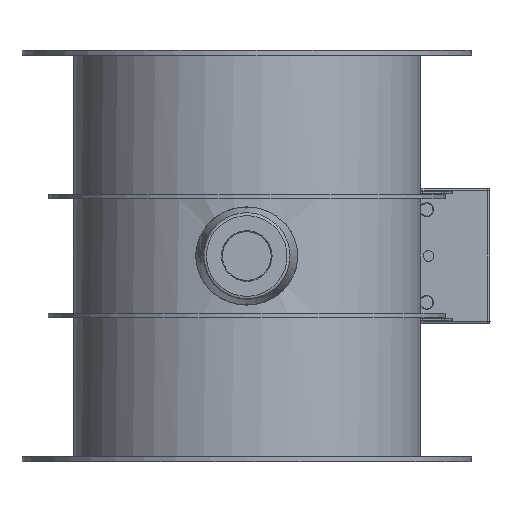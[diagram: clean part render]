
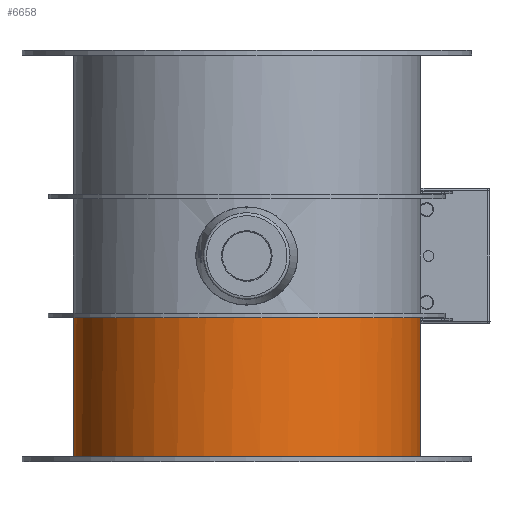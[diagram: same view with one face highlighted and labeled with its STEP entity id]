
A CAD part, left-side view. The second image highlights one B-rep face of the part: STEP entity #6658.
In plain terms, the highlighted free-form (B-spline) face has degree [2, 1] with [7, 2] control points.
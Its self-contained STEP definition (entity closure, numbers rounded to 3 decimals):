
#6265=CARTESIAN_POINT('',(114.,0.,-132.));
#6266=VERTEX_POINT('',#6265);
#6267=CARTESIAN_POINT('',(114.,0.,-132.));
#6268=CARTESIAN_POINT('',(114.,-197.454,-132.));
#6269=CARTESIAN_POINT('',(-57.,-98.727,-132.));
#6270=CARTESIAN_POINT('',(-228.,0.,-132.));
#6271=CARTESIAN_POINT('',(-57.,98.727,-132.));
#6272=CARTESIAN_POINT('',(114.,197.454,-132.));
#6273=CARTESIAN_POINT('',(114.,0.,-132.));
#6274=(BOUNDED_CURVE()B_SPLINE_CURVE(2,(#6267,#6268,#6269,#6270,#6271,#6272,#6273),.CIRCULAR_ARC.,.T.,.U.)B_SPLINE_CURVE_WITH_KNOTS((3,2,2,3),(0.,0.333,0.667,1.),.UNSPECIFIED.)CURVE()GEOMETRIC_REPRESENTATION_ITEM()RATIONAL_B_SPLINE_CURVE((1.,0.5,1.,0.5,1.,0.5,1.))REPRESENTATION_ITEM(''));
#6275=EDGE_CURVE('',#6266,#6266,#6274,.T.);
#6622=CARTESIAN_POINT('',(114.,0.,-132.));
#6623=CARTESIAN_POINT('',(114.,0.,132.));
#6624=CARTESIAN_POINT('',(114.,197.454,-132.));
#6625=CARTESIAN_POINT('',(114.,197.454,132.));
#6626=CARTESIAN_POINT('',(-57.,98.727,-132.));
#6627=CARTESIAN_POINT('',(-57.,98.727,132.));
#6628=CARTESIAN_POINT('',(-228.,0.,-132.));
#6629=CARTESIAN_POINT('',(-228.,0.,132.));
#6630=CARTESIAN_POINT('',(-57.,-98.727,-132.));
#6631=CARTESIAN_POINT('',(-57.,-98.727,132.));
#6632=CARTESIAN_POINT('',(114.,-197.454,-132.));
#6633=CARTESIAN_POINT('',(114.,-197.454,132.));
#6634=CARTESIAN_POINT('',(114.,0.,-132.));
#6635=CARTESIAN_POINT('',(114.,0.,132.));
#6636=(BOUNDED_SURFACE()B_SPLINE_SURFACE(2,1,((#6622,#6623),(#6624,#6625),(#6626,#6627),(#6628,#6629),(#6630,#6631),(#6632,#6633),(#6634,#6635)),.CYLINDRICAL_SURF.,.T.,.F.,.U.)B_SPLINE_SURFACE_WITH_KNOTS((3,2,2,3),(2,2),(0.,0.333,0.667,1.),(0.011,0.989),.UNSPECIFIED.)GEOMETRIC_REPRESENTATION_ITEM()RATIONAL_B_SPLINE_SURFACE(((1.,1.),(0.5,0.5),(1.,1.),(0.5,0.5),(1.,1.),(0.5,0.5),(1.,1.)))REPRESENTATION_ITEM('')SURFACE());
#6637=ORIENTED_EDGE('',*,*,#6275,.F.);
#6638=CARTESIAN_POINT('',(114.,0.,-40.5));
#6639=VERTEX_POINT('',#6638);
#6640=CARTESIAN_POINT('',(114.,0.,-132.));
#6641=CARTESIAN_POINT('',(114.,0.,-40.5));
#6642=B_SPLINE_CURVE_WITH_KNOTS('',1,(#6640,#6641),.POLYLINE_FORM.,.F.,.U.,(2,2),(0.011,0.35),.UNSPECIFIED.);
#6643=EDGE_CURVE('',#6266,#6639,#6642,.T.);
#6644=ORIENTED_EDGE('',*,*,#6643,.T.);
#6645=CARTESIAN_POINT('',(114.,0.,-40.5));
#6646=CARTESIAN_POINT('',(114.,197.454,-40.5));
#6647=CARTESIAN_POINT('',(-57.,98.727,-40.5));
#6648=CARTESIAN_POINT('',(-228.,0.,-40.5));
#6649=CARTESIAN_POINT('',(-57.,-98.727,-40.5));
#6650=CARTESIAN_POINT('',(114.,-197.454,-40.5));
#6651=CARTESIAN_POINT('',(114.,0.,-40.5));
#6652=(BOUNDED_CURVE()B_SPLINE_CURVE(2,(#6645,#6646,#6647,#6648,#6649,#6650,#6651),.CIRCULAR_ARC.,.T.,.U.)B_SPLINE_CURVE_WITH_KNOTS((3,2,2,3),(0.,0.333,0.667,1.),.UNSPECIFIED.)CURVE()GEOMETRIC_REPRESENTATION_ITEM()RATIONAL_B_SPLINE_CURVE((1.,0.5,1.,0.5,1.,0.5,1.))REPRESENTATION_ITEM(''));
#6653=EDGE_CURVE('',#6639,#6639,#6652,.T.);
#6654=ORIENTED_EDGE('',*,*,#6653,.F.);
#6655=ORIENTED_EDGE('',*,*,#6643,.F.);
#6656=EDGE_LOOP('',(#6637,#6644,#6654,#6655));
#6657=FACE_OUTER_BOUND('',#6656,.T.);
#6658=ADVANCED_FACE('',(#6657),#6636,.T.);
